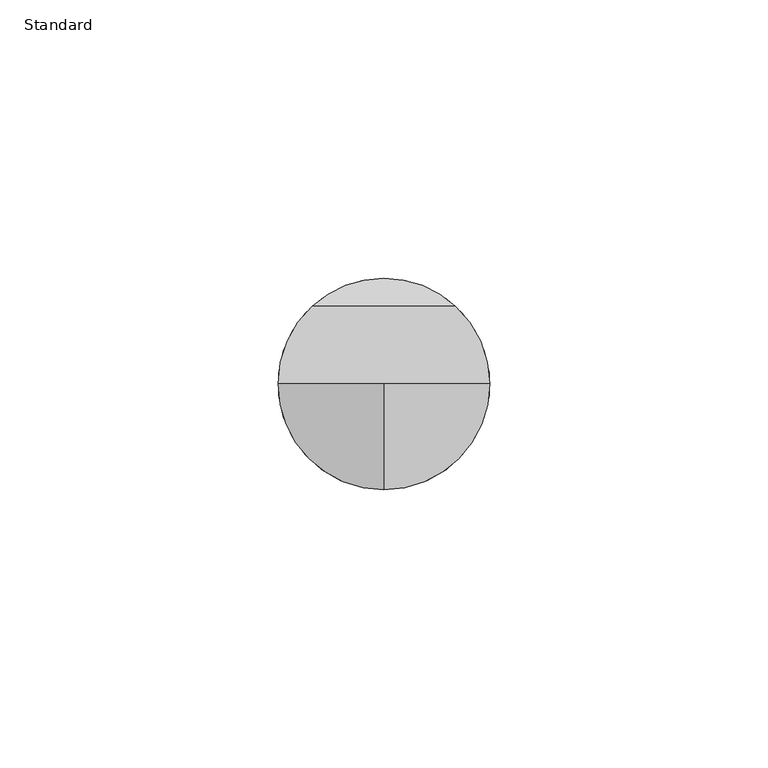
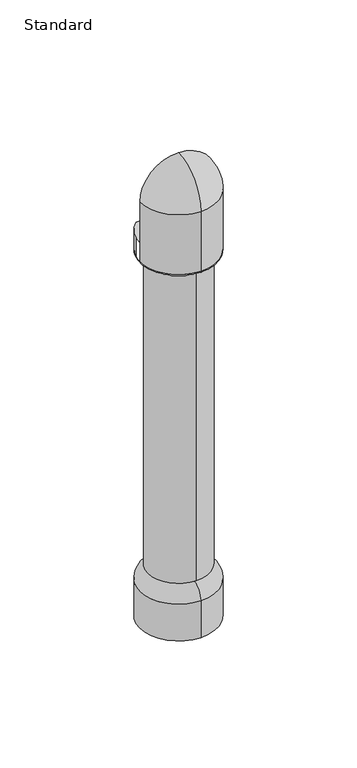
"""IFC4 building model written with IfcOpenShell, lengths in millimetres: furniture geometry, X_Partition-Foot-Duracube-Assembly : Standard."""

from ifc_helpers import new_model, si_unit, point, frame, origin, place, context, project, spatial, polyline, circle_curve, ellipse_curve, trimmed, source, transform, mapped, element, save
from ifc_brep_helpers import plane_surface, cylinder_surface, revolved_surface, advanced_brep


def standard_6f46902e(model_context):
    return source(origin(), model_context, "Body", "AdvancedBrep", [
        advanced_brep(
        [(44.7003264, 32.0, 27.0), (44.7003264, 32.0, 26.0), (44.7003264, 8.0, 26.0), (44.7003264, 8.0, 27.0), (44.7003264, 30.0, 27.0), (44.7003264, 10.0, 27.0), (44.7003264, 30.0, 0.0), (44.7003264, 10.0, 0.0), (44.7003264, 39.0, 0.0), (44.7003264, 1.0, 0.0), (44.7003264, 39.0, 19.0), (44.7003264, 1.0, 19.0)],
        [
            (0, 1),
            (1, 2, circle_curve(frame((44.7003264, 20.0, 26.0), z_axis=(0.0, 0.0, 1.0), x_axis=(0.0, -1.0, 0.0)), 12.0)),
            (2, 3),
            (3, 0, circle_curve(frame((44.7003264, 20.0, 27.0), z_axis=(0.0, 0.0, -1.0), x_axis=(0.0, -1.0, 0.0)), 12.0)),
            (2, 1, circle_curve(frame((44.7003264, 20.0, 26.0), z_axis=(0.0, 0.0, 1.0), x_axis=(0.0, -1.0, 0.0)), 12.0)),
            (0, 3, circle_curve(frame((44.7003264, 20.0, 27.0), z_axis=(0.0, 0.0, -1.0), x_axis=(0.0, -1.0, 0.0)), 12.0)),
            (4, 0),
            (3, 5),
            (5, 4, circle_curve(frame((44.7003264, 20.0, 27.0), z_axis=(0.0, 0.0, -1.0), x_axis=(0.0, -1.0, 0.0)), 10.0)),
            (4, 5, circle_curve(frame((44.7003264, 20.0, 27.0), z_axis=(0.0, 0.0, -1.0), x_axis=(0.0, -1.0, 0.0)), 10.0)),
            (6, 4),
            (5, 7),
            (7, 6, circle_curve(frame((44.7003264, 20.0, 0.0), z_axis=(0.0, 0.0, -1.0), x_axis=(0.0, -1.0, 0.0)), 10.0)),
            (6, 7, circle_curve(frame((44.7003264, 20.0, 0.0), z_axis=(0.0, 0.0, -1.0), x_axis=(0.0, -1.0, 0.0)), 10.0)),
            (8, 6),
            (7, 9),
            (9, 8, circle_curve(frame((44.7003264, 20.0, 0.0), z_axis=(0.0, 0.0, -1.0), x_axis=(0.0, -1.0, 0.0)), 19.0)),
            (8, 9, circle_curve(frame((44.7003264, 20.0, 0.0), z_axis=(0.0, 0.0, -1.0), x_axis=(0.0, -1.0, 0.0)), 19.0)),
            (10, 8),
            (9, 11),
            (11, 10, circle_curve(frame((44.7003264, 20.0, 19.0), z_axis=(0.0, 0.0, -1.0), x_axis=(0.0, -1.0, 0.0)), 19.0)),
            (10, 11, circle_curve(frame((44.7003264, 20.0, 19.0), z_axis=(0.0, 0.0, -1.0), x_axis=(0.0, -1.0, 0.0)), 19.0)),
            (1, 10, circle_curve(frame((44.7003264, 32.0, 19.0), z_axis=(-1.0, 0.0, 0.0), x_axis=(0.0, 1.0, 0.0)), 7.0)),
            (11, 2, circle_curve(frame((44.7003264, 8.0, 19.0), z_axis=(-1.0, 0.0, 0.0), x_axis=(0.0, -1.0, 0.0)), 7.0)),
        ],
        [
            cylinder_surface(frame((44.7003264, 20.0, 0.0), z_axis=(0.0, 0.0, 1.0), x_axis=(0.0, -1.0, 0.0)), 12.0),
            plane_surface(frame((44.7003264, 20.0, 27.0), z_axis=(0.0, 0.0, 1.0), x_axis=(0.0, -1.0, 0.0))),
            revolved_surface(polyline([(44.7003264, 10.0, 27.0), (44.7003264, 10.0, 0.0)]), (44.7003264, 20.0, 0.0), (0.0, 0.0, 1.0)),
            plane_surface(frame((44.7003264, 20.0, 0.0), z_axis=(0.0, 0.0, -1.0), x_axis=(0.0, -1.0, 0.0))),
            cylinder_surface(frame((44.7003264, 20.0, 0.0), z_axis=(0.0, 0.0, 1.0), x_axis=(0.0, -1.0, 0.0)), 19.0),
            revolved_surface(trimmed(ellipse_curve(frame((44.7003264, 8.0, 19.0), z_axis=(-1.0, 0.0, 0.0), x_axis=(0.0, -1.0, 0.0)), 7.0, 7.0), [point((44.7003264, 1.0, 19.0))], [point((44.7003264, 8.0, 26.0))], True, "CARTESIAN"), (44.7003264, 20.0, 0.0), (0.0, 0.0, 1.0)),
        ],
        [
            (0, [[1, 2, 3, 4]]),
            (0, [[-3, 5, -1, 6]]),
            (1, [[7, -4, 8, 9]]),
            (1, [[-8, -6, -7, 10]]),
            (2, [[11, -9, 12, 13]]),
            (2, [[-12, -10, -11, 14]]),
            (3, [[15, -13, 16, 17]]),
            (3, [[-16, -14, -15, 18]]),
            (4, [[19, -17, 20, 21]]),
            (4, [[-20, -18, -19, 22]]),
            (5, [[23, -21, 24, -2]]),
            (5, [[-24, -22, -23, -5]]),
        ],
    ),
        advanced_brep(
        [(44.7003264, 35.0, 27.0), (44.7003264, 20.0, 27.0), (44.7003264, 5.0, 27.0), (44.7003264, 35.0, 189.0), (44.7003264, 5.0, 189.0), (44.7003264, 20.0, 189.0)],
        [
            (0, 1),
            (1, 2),
            (2, 0, circle_curve(frame((44.7003264, 20.0, 27.0), z_axis=(0.0, 0.0, -1.0), x_axis=(0.0, -1.0, 0.0)), 15.0)),
            (0, 2, circle_curve(frame((44.7003264, 20.0, 27.0), z_axis=(0.0, 0.0, -1.0), x_axis=(0.0, -1.0, 0.0)), 15.0)),
            (3, 0),
            (2, 4),
            (4, 3, circle_curve(frame((44.7003264, 20.0, 189.0), z_axis=(0.0, 0.0, -1.0), x_axis=(0.0, -1.0, 0.0)), 15.0)),
            (3, 4, circle_curve(frame((44.7003264, 20.0, 189.0), z_axis=(0.0, 0.0, -1.0), x_axis=(0.0, -1.0, 0.0)), 15.0)),
            (5, 3),
            (4, 5),
        ],
        [
            plane_surface(frame((44.7003264, 20.0, 27.0), z_axis=(0.0, 0.0, -1.0), x_axis=(0.0, -1.0, 0.0))),
            cylinder_surface(frame((44.7003264, 20.0, 197.0), z_axis=(0.0, 0.0, 1.0), x_axis=(0.0, -1.0, 0.0)), 15.0),
            plane_surface(frame((44.7003264, 20.0, 189.0), z_axis=(0.0, 0.0, 1.0), x_axis=(0.0, -1.0, 0.0))),
        ],
        [
            (0, [[1, 2, 3]]),
            (0, [[-2, -1, 4]]),
            (1, [[5, -3, 6, 7]]),
            (1, [[-6, -4, -5, 8]]),
            (2, [[9, -7, 10]]),
            (2, [[-10, -8, -9]]),
        ],
    ),
        advanced_brep(
        [(44.7003264, 38.0, 189.0), (44.7003264, 25.0, 189.0), (44.7003264, 15.0, 189.0), (44.7003264, 2.0, 189.0), (44.7003264, 25.0, 27.0), (44.7003264, 15.0, 27.0), (44.7003264, 20.0, 27.0), (44.7003264, 1.0, 190.0), (44.7003264, 39.0, 190.0), (44.7003264, 1.0, 221.0), (25.7003264, 20.0, 221.0), (25.7003264, 20.0, 200.0), (31.8550939, 34.0, 200.0), (44.7003264, 39.0, 195.0), (57.545559, 34.0, 200.0), (63.7003264, 20.0, 200.0), (63.7003264, 20.0, 221.0), (44.7003264, 20.0, 240.0)],
        [
            (0, 1),
            (1, 2, circle_curve(frame((44.7003264, 20.0, 189.0), z_axis=(0.0, 0.0, 1.0), x_axis=(0.0, -1.0, 0.0)), 5.0)),
            (2, 3),
            (3, 0, circle_curve(frame((44.7003264, 20.0, 189.0), z_axis=(0.0, 0.0, -1.0), x_axis=(0.0, -1.0, 0.0)), 18.0)),
            (2, 1, circle_curve(frame((44.7003264, 20.0, 189.0), z_axis=(0.0, 0.0, 1.0), x_axis=(0.0, -1.0, 0.0)), 5.0)),
            (0, 3, circle_curve(frame((44.7003264, 20.0, 189.0), z_axis=(0.0, 0.0, -1.0), x_axis=(0.0, -1.0, 0.0)), 18.0)),
            (1, 4),
            (4, 5, circle_curve(frame((44.7003264, 20.0, 27.0), z_axis=(0.0, 0.0, 1.0), x_axis=(0.0, -1.0, 0.0)), 5.0)),
            (5, 2),
            (5, 4, circle_curve(frame((44.7003264, 20.0, 27.0), z_axis=(0.0, 0.0, 1.0), x_axis=(0.0, -1.0, 0.0)), 5.0)),
            (4, 6),
            (6, 5),
            (3, 7, circle_curve(frame((44.7003264, 2.0, 190.0), z_axis=(-1.0, 0.0, 0.0), x_axis=(0.0, -1.0, 0.0)), 1.0)),
            (7, 8, circle_curve(frame((44.7003264, 20.0, 190.0), z_axis=(0.0, 0.0, -1.0), x_axis=(0.0, -1.0, 0.0)), 19.0)),
            (8, 0, circle_curve(frame((44.7003264, 38.0, 190.0), z_axis=(-1.0, 0.0, 0.0), x_axis=(0.0, 1.0, 0.0)), 1.0)),
            (8, 7, circle_curve(frame((44.7003264, 20.0, 190.0), z_axis=(0.0, 0.0, -1.0), x_axis=(0.0, -1.0, 0.0)), 19.0)),
            (7, 9),
            (9, 10, circle_curve(frame((44.7003264, 20.0, 221.0), z_axis=(0.0, 0.0, -1.0), x_axis=(0.0, -1.0, 0.0)), 19.0)),
            (10, 11),
            (11, 12, circle_curve(frame((44.7003264, 20.0, 200.0), z_axis=(0.0, 0.0, -1.0), x_axis=(0.0, -1.0, 0.0)), 19.0)),
            (12, 13, ellipse_curve(frame((44.7003264, 20.0, 214.0), z_axis=(0.0, -0.7071067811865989, -0.7071067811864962), x_axis=(0.0, -0.7071067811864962, 0.7071067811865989)), 26.8700577, 19.0)),
            (13, 8),
            (13, 14, ellipse_curve(frame((44.7003264, 20.0, 214.0), z_axis=(0.0, -0.7071067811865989, -0.7071067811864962), x_axis=(0.0, -0.7071067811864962, 0.7071067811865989)), 26.8700577, 19.0)),
            (14, 15, circle_curve(frame((44.7003264, 20.0, 200.0), z_axis=(0.0, 0.0, -1.0), x_axis=(0.0, -1.0, 0.0)), 19.0)),
            (15, 16),
            (16, 9, circle_curve(frame((44.7003264, 20.0, 221.0), z_axis=(0.0, 0.0, -1.0), x_axis=(0.0, -1.0, 0.0)), 19.0)),
            (17, 10, circle_curve(frame((44.7003264, 20.0, 221.0), z_axis=(0.0, -1.0, 0.0), x_axis=(-1.0, 0.0, 0.0)), 19.0)),
            (9, 17, circle_curve(frame((44.7003264, 20.0, 221.0), z_axis=(-1.0, 0.0, 0.0), x_axis=(0.0, -1.0, 0.0)), 19.0)),
            (16, 17, circle_curve(frame((44.7003264, 20.0, 221.0), z_axis=(0.0, -1.0, 0.0), x_axis=(1.0, 0.0, 0.0)), 19.0)),
            (11, 15),
            (14, 12),
        ],
        [
            plane_surface(frame((44.7003264, 20.0, 189.0), z_axis=(0.0, 0.0, -1.0), x_axis=(0.0, -1.0, 0.0))),
            cylinder_surface(frame((44.7003264, 20.0, 240.0), z_axis=(0.0, 0.0, 1.0), x_axis=(0.0, -1.0, 0.0)), 5.0),
            plane_surface(frame((44.7003264, 20.0, 27.0), z_axis=(0.0, 0.0, -1.0), x_axis=(0.0, -1.0, 0.0))),
            revolved_surface(trimmed(ellipse_curve(frame((44.7003264, 2.0, 190.0), z_axis=(-1.0, 0.0, 0.0), x_axis=(0.0, -1.0, 0.0)), 1.0, 1.0), [point((44.7003264, 2.0, 189.0))], [point((44.7003264, 1.0, 190.0))], True, "CARTESIAN"), (44.7003264, 20.0, 240.0), (0.0, 0.0, 1.0)),
            cylinder_surface(frame((44.7003264, 20.0, 240.0), z_axis=(0.0, 0.0, 1.0), x_axis=(0.0, -1.0, 0.0)), 19.0),
            revolved_surface(trimmed(ellipse_curve(frame((44.7003264, 20.0, 221.0), z_axis=(-1.0, 0.0, 0.0), x_axis=(0.0, -1.0, 0.0)), 19.0, 19.0), [point((44.7003264, 1.0, 221.0))], [point((44.7003264, 20.0, 240.0))], True, "CARTESIAN"), (44.7003264, 20.0, 240.0), (0.0, 0.0, 1.0)),
            plane_surface(frame((64.7003264, 34.0, 200.0), z_axis=(0.0, 0.0, 1.0), x_axis=(-1.0, 0.0, 0.0))),
            plane_surface(frame((64.7003264, 20.0, 200.0), z_axis=(0.0, 1.0, 0.0), x_axis=(-1.0, 0.0, 0.0))),
            plane_surface(frame((64.7003264, 40.0, 194.0), z_axis=(0.0, 0.7071067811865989, 0.7071067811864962), x_axis=(-1.0, 0.0, 0.0))),
        ],
        [
            (0, [[1, 2, 3, 4]]),
            (0, [[5, -1, 6, -3]]),
            (1, [[7, 8, 9, -2]]),
            (1, [[-9, 10, -7, -5]]),
            (2, [[11, 12, -8]]),
            (2, [[-12, -11, -10]]),
            (3, [[13, 14, 15, -4]]),
            (3, [[-15, 16, -13, -6]]),
            (4, [[17, 18, 19, 20, 21, 22, -14]]),
            (4, [[-22, 23, 24, 25, 26, -17, -16]]),
            (5, [[27, -18, 28]]),
            (5, [[-26, 29, -28]]),
            (6, [[-20, 30, -24, 31]]),
            (7, [[-19, -27, -29, -25, -30]]),
            (8, [[-23, -21, -31]]),
        ],
    ),
    ])


if __name__ == "__main__":
    model = new_model("IFC4")
    model_context = context("Model", 3, world=origin())
    ifc_project = project(units=[si_unit("LENGTHUNIT", "METRE", prefix="MILLI")], contexts=[model_context])
    site = spatial("IfcSite", under=ifc_project)
    building = spatial("IfcBuilding", under=site)
    placement = place(None, origin())
    standard_shape = standard_6f46902e(model_context)
    element("IfcFurniture", 1, ObjectType="X_Partition-Foot-Duracube-Assembly : Standard", at=placement, inside=building, context=model_context, shape_type="MappedRepresentation", body=[
        mapped(standard_shape, transform((0.0, 0.0, 0.0), x_axis=(1.0, 0.0, 0.0), y_axis=(0.0, 1.0, 0.0), z_axis=(0.0, 0.0, 1.0))),
    ])
    save(model, "model.ifc")
